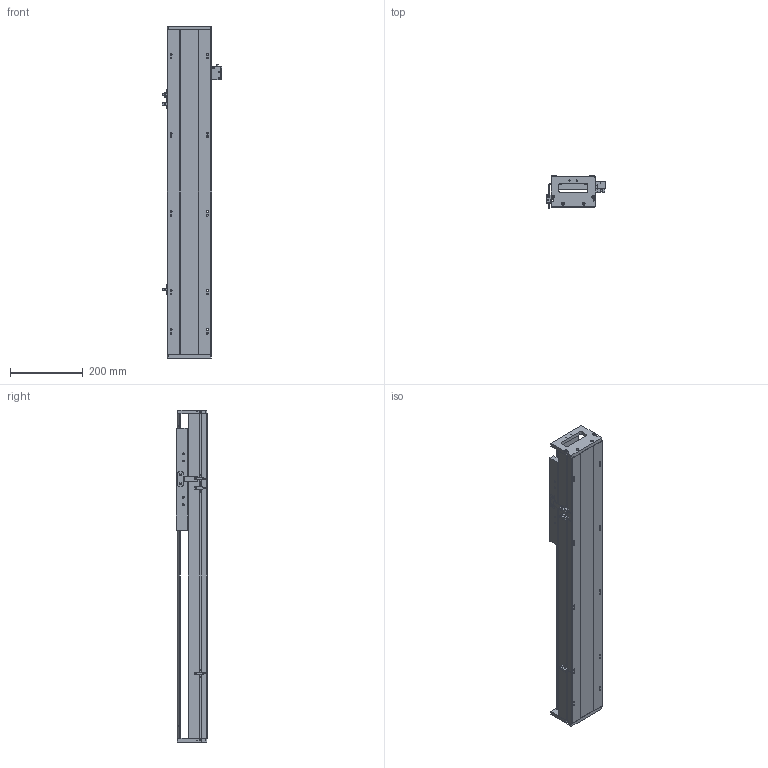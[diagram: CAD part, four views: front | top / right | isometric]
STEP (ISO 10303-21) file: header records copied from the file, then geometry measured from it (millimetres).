
FILE_DESCRIPTION (( 'STEP AP203' ), '1' );
FILE_NAME ('SKR12S-C2-S532（简）.STEP', '2022-09-26T03:22:00', ( '' ), ( '' ), 'SwSTEP 2.0', 'SolidWorks 2018', '' );
FILE_SCHEMA (( 'CONFIG_CONTROL_DESIGN' ));
Length unit declared in the file: millimetre
Products named in the file (8): SKR12底座-C2-S532（简); SIKO棠掑; EE-SX672; SKR12S-C2-S532（简）; 覜茼え; SKR12滑台-280L（简）; 棠掑假蚾輸; SKR12耜啣
Assembly tree (10 placements, depth 2):
  SKR12S-C2-S532（简）
    SKR12底座-C2-S532（简)
    SKR12滑台-280L（简）
    SKR12耜啣  x2
    棠掑假蚾輸
    SIKO棠掑
    EE-SX672  x3
    覜茼え
Bounding box: 162.7 x 87.3 x 912 mm (x, y, z)
Volume: 4503549 mm3; surface area: 738195 mm2
Topology: 11 solids, 11 shells, 958 faces, 2541 edges, 1607 vertices
Faces by surface type: cylinder 432, plane 396, cone 130
Entity records: 25807 total; most frequent: CARTESIAN_POINT 5055, DIRECTION 4297, ORIENTED_EDGE 4054, EDGE_CURVE 2027, AXIS2_PLACEMENT_3D 1585, VERTEX_POINT 1311, LINE 1127, VECTOR 1127
